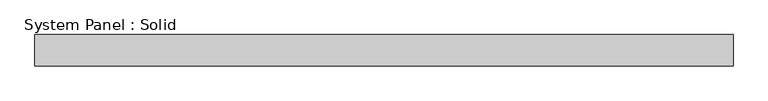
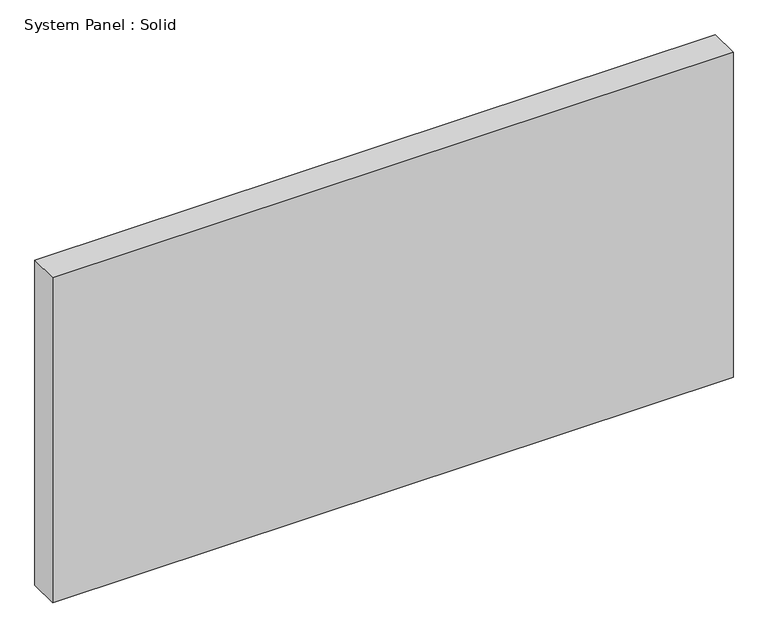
"""IFC4 building model written with IfcOpenShell, lengths in millimetres: plate geometry, System Panel : Solid."""

from ifc_helpers import new_model, si_unit, origin, origin_with_axes, place, context, project, spatial, polyline, outline, extrude, source, transform, mapped, element, save


def system_panel_solid_d74a2081(model_context):
    return source(origin(), model_context, "Body", "SweptSolid", [
        extrude(outline(polyline([(707.3194444, -19.05), (-707.3194444, -19.05), (-707.3194444, 44.45), (707.3194444, 44.45), (707.3194444, -19.05)])), origin_with_axes(), (0.0, 0.0, 1.0), 714.375),
    ])


if __name__ == "__main__":
    model = new_model("IFC4")
    model_context = context("Model", 3, world=origin())
    ifc_project = project(units=[si_unit("LENGTHUNIT", "METRE", prefix="MILLI")], contexts=[model_context])
    site = spatial("IfcSite", under=ifc_project)
    building = spatial("IfcBuilding", under=site)
    placement = place(None, origin())
    system_panel_solid_shape = system_panel_solid_d74a2081(model_context)
    element("IfcPlate", 1, ObjectType="System Panel : Solid", at=placement, inside=building, context=model_context, shape_type="MappedRepresentation", body=[
        mapped(system_panel_solid_shape, transform((0.0, 0.0, 0.0), x_axis=(1.0, 0.0, 0.0), y_axis=(0.0, 1.0, 0.0), z_axis=(0.0, 0.0, 1.0))),
    ])
    save(model, "model.ifc")
